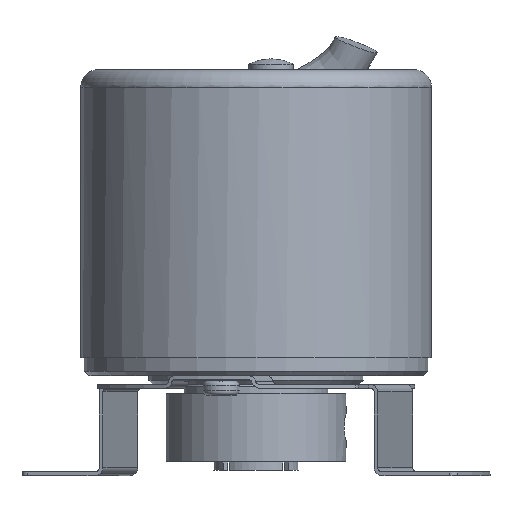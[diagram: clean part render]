
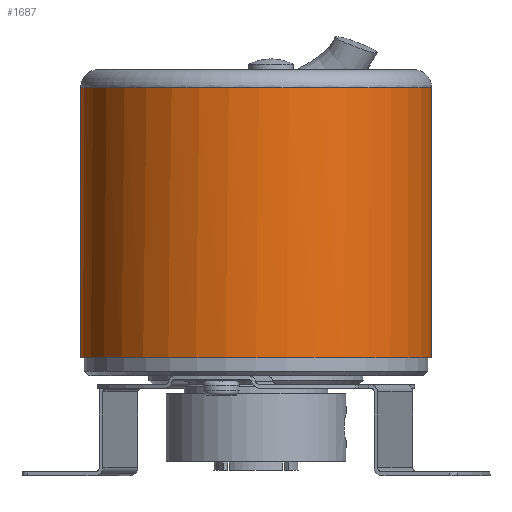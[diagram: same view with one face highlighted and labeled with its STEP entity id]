
A CAD part, front view. The second image highlights one B-rep face of the part: STEP entity #1687.
In plain terms, the highlighted cylindrical face has radius 19.5 mm (diameter 39 mm), a full revolution.
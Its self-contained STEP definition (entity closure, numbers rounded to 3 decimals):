
#824=CYLINDRICAL_SURFACE('',#4802,19.5);
#1179=LINE('',#7055,#1439);
#1180=LINE('',#7059,#1440);
#1439=VECTOR('',#5408,1.);
#1440=VECTOR('',#5411,1.);
#1687=ADVANCED_FACE('',(#1985,#1986),#824,.T.);
#1985=FACE_BOUND('',#2115,.T.);
#1986=FACE_BOUND('',#2116,.T.);
#2115=EDGE_LOOP('',(#2572));
#2116=EDGE_LOOP('',(#2573,#2574,#2575,#2576));
#2572=ORIENTED_EDGE('',*,*,#4016,.T.);
#2573=ORIENTED_EDGE('',*,*,#4017,.T.);
#2574=ORIENTED_EDGE('',*,*,#4018,.T.);
#2575=ORIENTED_EDGE('',*,*,#4019,.T.);
#2576=ORIENTED_EDGE('',*,*,#4020,.T.);
#3592=VERTEX_POINT('',#7051);
#3593=VERTEX_POINT('',#7053);
#3594=VERTEX_POINT('',#7054);
#3595=VERTEX_POINT('',#7056);
#3596=VERTEX_POINT('',#7058);
#4016=EDGE_CURVE('',#3592,#3592,#4520,.T.);
#4017=EDGE_CURVE('',#3593,#3594,#4521,.T.);
#4018=EDGE_CURVE('',#3594,#3595,#1179,.T.);
#4019=EDGE_CURVE('',#3595,#3596,#4522,.T.);
#4020=EDGE_CURVE('',#3596,#3593,#1180,.T.);
#4520=CIRCLE('',#4799,19.5);
#4521=CIRCLE('',#4800,19.5);
#4522=CIRCLE('',#4801,19.5);
#4799=AXIS2_PLACEMENT_3D('',#7050,#5404,#5405);
#4800=AXIS2_PLACEMENT_3D('',#7052,#5406,#5407);
#4801=AXIS2_PLACEMENT_3D('',#7057,#5409,#5410);
#4802=AXIS2_PLACEMENT_3D('',#7060,#5412,#5413);
#5404=DIRECTION('',(0.,0.,1.));
#5405=DIRECTION('',(1.,0.,0.));
#5406=DIRECTION('',(0.,0.,-1.));
#5407=DIRECTION('',(-1.,0.,0.));
#5408=DIRECTION('',(0.,0.,1.));
#5409=DIRECTION('',(0.,0.,-1.));
#5410=DIRECTION('',(-1.,0.,0.));
#5411=DIRECTION('',(0.,0.,-1.));
#5412=DIRECTION('',(0.,0.,1.));
#5413=DIRECTION('',(1.,0.,0.));
#7050=CARTESIAN_POINT('',(-28.953,-7.454,-39.));
#7051=CARTESIAN_POINT('',(-9.453,-7.454,-39.));
#7052=CARTESIAN_POINT('',(-28.953,-7.454,-20.661));
#7053=CARTESIAN_POINT('',(-36.459,10.544,-20.661));
#7054=CARTESIAN_POINT('',(-21.446,10.544,-20.661));
#7055=CARTESIAN_POINT('',(-21.446,10.544,-39.));
#7056=CARTESIAN_POINT('',(-21.446,10.544,-9.));
#7057=CARTESIAN_POINT('',(-28.953,-7.454,-9.));
#7058=CARTESIAN_POINT('',(-36.459,10.544,-9.));
#7059=CARTESIAN_POINT('',(-36.459,10.544,-39.));
#7060=CARTESIAN_POINT('',(-28.953,-7.454,-39.));
